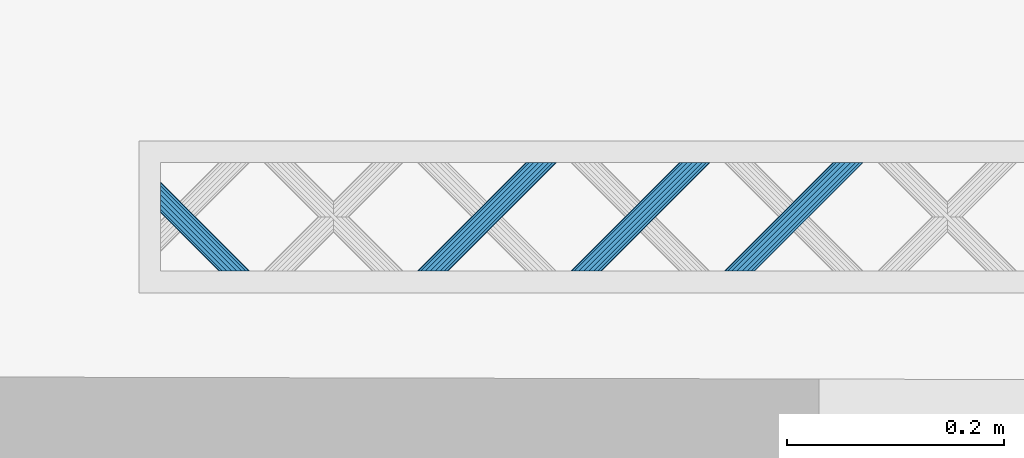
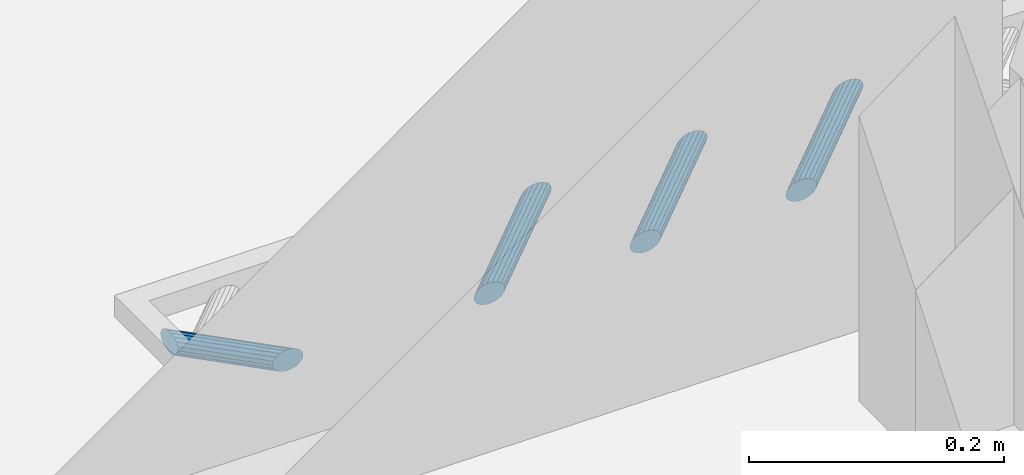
# One storey, part 61 of 133: 4 members, 1 element without a shape of its own.
"""IFC2X3 building model written with IfcOpenShell, lengths in centimetres."""

from ifc_helpers import new_model, entity, si_unit, converted_unit, direction, frame, origin, origin_with_axes, place, context, subcontext, project, spatial, faceted_brep, material, type_object, element, aggregate, save


model = new_model("IFC2X3")

# Units and contexts
model_context = context("Model", 3, precision=0.0001, world=origin(), true_north=direction((0.225632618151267, 0.974212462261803, 0.0)))
body_context = subcontext(model_context, "Body", "Model", "MODEL_VIEW")
ifc_project = project(units=[si_unit("LENGTHUNIT", "METRE", prefix="CENTI"), si_unit("AREAUNIT", "SQUARE_METRE", prefix="CENTI"), si_unit("VOLUMEUNIT", "CUBIC_METRE", prefix="CENTI"), converted_unit("PLANEANGLEUNIT", "DEGREE", entity("IfcRatioMeasure", 0.0174532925), si_unit("PLANEANGLEUNIT", "RADIAN"), dimensions=[0, 0, 0, 0, 0, 0, 0])], contexts=[model_context])

# Site, building, storey
site_placement = place(None, origin_with_axes())
site = spatial("IfcSite", under=ifc_project, at=site_placement, Name="Default Site", CompositionType="ELEMENT")
building_placement = place(site_placement, origin_with_axes())
building = spatial("IfcBuilding", under=site, at=building_placement, Name="Default Building", CompositionType="ELEMENT")
storey_placement = place(building_placement, frame((0.0, 0.0, -291.400371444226), z_axis=(0.0, 0.0, 1.0), x_axis=(1.0, 0.0, 0.0)))
storey = spatial("IfcBuildingStorey", under=building, at=storey_placement, Name="Rez-de-Jardin", CompositionType="ELEMENT", Elevation=-291.400371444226)

# Assembly, members
building_element_proxy_type = type_object("IfcBuildingElementProxyType", Name="Type Object", PredefinedType="NOTDEFINED")
assembly_placement = place(storey_placement, frame((-322.682568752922, 627.125798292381, 0.0), z_axis=(0.0, 1.0, -2.38697950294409e-15), x_axis=(1.0, 0.0, 0.0)))
assembly = element("IfcElementAssembly", 1, at=assembly_placement, inside=storey, type_object=building_element_proxy_type, Name="Panneau 92029", ObjectType="Precast panel", PredefinedType="USERDEFINED")
ifc_material = material(Name="Aluminium satiné")
member_1_placement = place(assembly_placement, frame((38.4050458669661, 0.342020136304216, 11.9999997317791), z_axis=(1.16937776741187e-15, -1.43218081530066e-15, 1.0), x_axis=(0.632457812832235, -0.774594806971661, -1.84894192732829e-15)))
member_1 = element("IfcMember", 2, at=member_1_placement, material=ifc_material, Name="4294966829", context=body_context, shape_type="Brep", body=[
    faceted_brep([(7.49400541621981e-14, -5.55111512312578e-14, 4.9960036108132e-14), (-0.388290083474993, -5.55111512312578e-14, 4.92421102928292e-14), (-0.799166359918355, -0.150246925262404, 4.84824239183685e-14), (-1.18307514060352, -0.432623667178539, 4.77725988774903e-14), (-1.49370756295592, -0.813066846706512, 4.71982575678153e-14), (-1.6935980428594, -1.24569095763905, 4.6828671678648e-14), (-1.75863665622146, -1.67831484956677, 4.67084190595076e-14), (-1.68098087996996, -2.05876033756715, 4.68520000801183e-14), (-1.46999321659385, -2.34113520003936, 4.72421040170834e-14), (-1.15112683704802, -2.49138695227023, 4.7831669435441e-14), (-0.762836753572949, -2.49138695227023, 4.85495952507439e-14), (-0.351960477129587, -2.34114002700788, 4.93092816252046e-14), (0.0319464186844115, -2.05876559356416, 5.00191031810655e-14), (0.342578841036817, -1.67832241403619, 5.05934444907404e-14), (0.542471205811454, -1.24569599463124, 5.0963033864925e-14), (0.607509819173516, -0.813072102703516, 5.10832864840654e-14), (0.529854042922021, -0.432626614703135, 5.09397054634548e-14), (0.318866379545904, -0.150251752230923, 5.05496015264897e-14), (-6.0057113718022, -7.89619936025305, -9.99999977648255), (-5.79472559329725, -8.17857653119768, -9.99999977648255), (-5.71706793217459, -8.55901971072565, -9.99999977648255), (-5.78210843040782, -8.99164591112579, -9.99999977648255), (-5.98199891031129, -9.42427002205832, -9.99999977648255), (-6.29263133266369, -9.80471320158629, -9.99999977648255), (-6.67653822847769, -10.08708763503, -9.99999977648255), (-7.08741450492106, -10.2373345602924, -9.99999977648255), (-7.47570458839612, -10.2373345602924, -9.99999977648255), (-7.79457285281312, -10.0870851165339, -9.99999977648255), (-8.00555863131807, -9.80470794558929, -9.99999977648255), (-8.08321440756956, -9.4242624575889, -9.99999977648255), (-8.0181757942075, -8.99163856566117, -9.99999977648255), (-7.81828531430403, -8.55901445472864, -9.99999977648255), (-7.50765289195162, -8.17857127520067, -9.99999977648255), (-7.12374599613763, -7.89619684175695, -9.99999977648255), (-6.7128678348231, -7.74594760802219, -9.99999977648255), (-6.3245796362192, -7.7459499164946, -9.99999977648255), (0.318866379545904, -0.150251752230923, 4.9960036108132e-14), (0.529853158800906, -0.432627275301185, 1.07086517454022e-06), (-5.79472543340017, -8.17857641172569, -9.99999997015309), (-6.00571152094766, -7.89619947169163, -9.99999959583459), (0.529854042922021, -0.432626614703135, 4.9960036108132e-14), (0.607510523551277, -0.813071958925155, -5.56859138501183e-07), (-5.71706740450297, -8.55901960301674, -10.0000001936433), (-5.79472435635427, -8.17857627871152, -10.0000007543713), (0.607509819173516, -0.813072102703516, 5.13478148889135e-14), (0.542470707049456, -1.245695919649, 2.57365118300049e-07), (-5.78210788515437, -8.9916459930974, -10.0000000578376), (-5.71706808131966, -8.55901968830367, -9.99999969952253), (0.542471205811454, -1.24569599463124, 5.13478148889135e-14), (0.342579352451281, -1.6783226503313, -1.40415054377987e-07), (-5.98199847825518, -9.42427022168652, -9.99999989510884), (-5.78210787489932, -8.99164616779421, -9.99999992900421), (0.342578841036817, -1.67832241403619, 4.9960036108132e-14), (0.0319464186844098, -2.05876559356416, 4.9960036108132e-14), (0.0319464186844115, -2.05876559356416, 4.9960036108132e-14), (-0.351960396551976, -2.34114013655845, 3.38954149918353e-08), (-6.67653809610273, -10.0870878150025, -9.99999972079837), (-6.29263128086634, -9.80471327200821, -9.99999975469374), (-0.351960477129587, -2.34114002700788, 4.9960036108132e-14), (-0.762836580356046, -2.49138742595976, 2.57365115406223e-07), (-7.08741427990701, -10.2373351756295, -9.99999944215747), (-6.67653817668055, -10.0870877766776, -9.99999969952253), (-0.762836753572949, -2.49138695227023, 4.85722573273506e-14), (-1.15112683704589, -2.49138623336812, -5.56859141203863e-07), (-7.47570458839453, -10.2373340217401, -10.0000001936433), (-7.08741450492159, -10.2373347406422, -9.99999963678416), (-1.15112683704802, -2.49138695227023, 4.71844785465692e-14), (-1.46999368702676, -2.34113619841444, 1.07086517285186e-06), (-7.79457276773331, -10.0870849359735, -9.99999997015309), (-7.47570466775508, -10.2373347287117, -9.99999959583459), (-1.46999321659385, -2.34113520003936, 4.71844785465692e-14), (-1.68097999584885, -2.0587596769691, -1.0708650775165e-06), (-8.00555789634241, -9.80470739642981, -10.0000006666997), (-7.79457180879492, -10.0870843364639, -10.0000010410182), (-1.68098087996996, -2.05876033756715, 4.71844785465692e-14), (-1.75863736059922, -1.67831499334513, 5.56859235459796e-07), (-8.08321528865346, -9.42426263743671, -9.99999907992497), (-8.00555880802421, -9.80470798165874, -9.99999963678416), (-1.75863665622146, -1.67831484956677, 4.57966997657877e-14), (-1.6935975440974, -1.24569103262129, -2.57365020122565e-07), (-8.01817544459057, -8.99163861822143, -9.99999995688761), (-8.08321455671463, -9.42426243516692, -9.99999969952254), (-1.6935980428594, -1.24569095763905, 4.71844785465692e-14), (-1.49370743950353, -0.813066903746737, -3.38953181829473e-08), (-7.81828527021, -8.55901447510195, -9.99999978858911), (-8.01817587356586, -8.99163852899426, -9.99999975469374), (-1.49370756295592, -0.813066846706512, 4.71844785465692e-14), (-1.18307514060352, -0.43262366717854, 4.71844785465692e-14), (-1.18307514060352, -0.432623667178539, 4.71844785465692e-14), (-0.799166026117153, -0.150247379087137, 1.40415152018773e-07), (-7.12374602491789, -7.89619680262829, -9.99999978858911), (-7.50765284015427, -8.17857134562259, -9.99999975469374), (-0.799166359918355, -0.150246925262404, 4.85722573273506e-14), (-0.388290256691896, 4.73689474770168e-07, -2.57365018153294e-07), (-6.71286795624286, -7.74594727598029, -9.9999999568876), (-7.12374635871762, -7.89619585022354, -10.0000003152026), (-0.388290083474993, -5.55111512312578e-14, 4.85722573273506e-14), (-2.05468528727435e-12, -7.18902166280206e-07, 5.56859238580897e-07), (-6.32457963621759, -7.74594937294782, -10.0000001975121), (-6.71286783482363, -7.74594778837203, -9.99999963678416), (0.318866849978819, -0.150250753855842, -1.0708650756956e-06), (-6.00571098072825, -7.89619853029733, -10.0000006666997), (-6.32457908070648, -7.74594873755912, -10.0000010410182)], [[[0, 1, 2, 3, 4, 5, 6, 7, 8, 9, 10, 11, 12, 13, 14, 15, 16, 17]], [[18, 19, 20, 21, 22, 23, 24, 25, 26, 27, 28, 29, 30, 31, 32, 33, 34, 35]], [[36, 37, 38, 39]], [[40, 41, 42, 43]], [[44, 45, 46, 47]], [[48, 49, 50, 51]], [[52, 53, 23, 22]], [[54, 55, 56, 57]], [[58, 59, 60, 61]], [[62, 63, 64, 65]], [[66, 67, 68, 69]], [[70, 71, 72, 73]], [[74, 75, 76, 77]], [[78, 79, 80, 81]], [[82, 83, 84, 85]], [[86, 87, 32, 31]], [[88, 89, 90, 91]], [[92, 93, 94, 95]], [[96, 97, 98, 99]], [[0, 100, 101, 102]]]),
])
member_2_placement = place(assembly_placement, frame((52.5471806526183, 0.342020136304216, 11.9999997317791), z_axis=(1.16937776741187e-15, -1.43218081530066e-15, 1.0), x_axis=(0.632457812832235, -0.774594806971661, -1.84894192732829e-15)))
member_2 = element("IfcMember", 3, at=member_2_placement, material=ifc_material, Name="4294966828", context=body_context, shape_type="Brep", body=[
    faceted_brep([(7.21644966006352e-14, -6.66133814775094e-14, 6.66133814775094e-14), (-0.38829008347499, -6.66133814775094e-14, 6.58954556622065e-14), (-0.799166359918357, -0.150246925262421, 6.51357692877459e-14), (-1.18307325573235, -0.432621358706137, 6.44259477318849e-14), (-1.49370756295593, -0.813066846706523, 6.38516029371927e-14), (-1.69359804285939, -1.24569095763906, 6.34820170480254e-14), (-1.75863665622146, -1.67831484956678, 6.3361764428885e-14), (-1.6809789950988, -2.05875802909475, 6.35053489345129e-14), (-1.46999321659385, -2.34113520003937, 6.38954493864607e-14), (-1.15112495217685, -2.49138464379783, 6.44850182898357e-14), (-0.762836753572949, -2.49138695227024, 6.52029406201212e-14), (-0.351960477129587, -2.34114002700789, 6.59626269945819e-14), (0.0319464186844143, -2.05876559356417, 6.66724485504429e-14), (0.342580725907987, -1.67832010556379, 6.72467933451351e-14), (0.542471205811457, -1.24569599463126, 6.76163792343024e-14), (0.607509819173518, -0.813072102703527, 6.77366318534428e-14), (0.529854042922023, -0.432626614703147, 6.75930508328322e-14), (0.318868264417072, -0.150249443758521, 6.72029503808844e-14), (-6.0057113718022, -7.89619936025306, -9.99999977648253), (-5.79472370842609, -8.17857422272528, -9.99999977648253), (-5.71706793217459, -8.55901971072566, -9.99999977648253), (-5.78210654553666, -8.99164360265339, -9.99999977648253), (-5.98199702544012, -9.42426771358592, -9.99999977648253), (-6.29262944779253, -9.80471089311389, -9.99999977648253), (-6.67653822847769, -10.08708763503, -9.99999977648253), (-7.08741450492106, -10.2373345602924, -9.99999977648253), (-7.47570458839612, -10.2373345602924, -9.99999977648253), (-7.79457096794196, -10.0870828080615, -9.99999977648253), (-8.00555863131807, -9.8047079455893, -9.99999977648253), (-8.08321440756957, -9.42426245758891, -9.99999977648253), (-8.0181757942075, -8.99163856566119, -9.99999977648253), (-7.81828342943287, -8.55901214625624, -9.99999977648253), (-7.50765100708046, -8.17856896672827, -9.99999977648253), (-7.12374411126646, -7.89619453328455, -9.99999977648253), (-6.7128678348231, -7.7459476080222, -9.99999977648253), (-6.32457775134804, -7.7459476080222, -9.99999977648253), (0.318868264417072, -0.150249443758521, 6.66133814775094e-14), (0.529854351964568, -0.432626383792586, -3.74318426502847e-07), (-5.794723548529, -8.17857410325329, -9.99999997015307), (-6.005710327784, -7.89619858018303, -10.0000010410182), (0.529854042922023, -0.432626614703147, 6.66133814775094e-14), (0.607510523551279, -0.813071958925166, -5.56859121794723e-07), (-5.71706740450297, -8.55901960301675, -10.0000001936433), (-5.79472388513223, -8.17857425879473, -9.99999963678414), (0.607509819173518, -0.813072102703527, 6.80011602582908e-14), (0.542470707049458, -1.24569591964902, 2.5736513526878e-07), (-5.78210719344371, -8.99164350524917, -9.99999944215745), (-5.71706808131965, -8.55901968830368, -9.99999969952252), (0.542471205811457, -1.24569599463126, 6.80011602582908e-14), (0.342580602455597, -1.67832004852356, 3.38954321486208e-08), (-5.98199722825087, -9.42426761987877, -9.99999972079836), (-5.78210662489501, -8.99164356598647, -9.99999975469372), (0.342580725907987, -1.67832010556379, 6.66133814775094e-14), (0.0319464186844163, -2.05876559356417, 6.66133814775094e-14), (0.0319464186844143, -2.05876559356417, 6.66133814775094e-14), (-0.351960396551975, -2.34114013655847, 3.38954320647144e-08), (-6.67653809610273, -10.0870878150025, -9.99999972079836), (-6.29262898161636, -9.80471152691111, -9.99999958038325), (-0.351960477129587, -2.34114002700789, 6.66133814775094e-14), (-0.762836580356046, -2.49138742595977, 2.57365132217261e-07), (-7.08741427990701, -10.2373351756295, -9.99999944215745), (-6.67653817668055, -10.0870877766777, -9.99999969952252), (-0.762836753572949, -2.49138695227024, 6.52256026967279e-14), (-1.15112495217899, -2.49138536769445, 5.60727983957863e-07), (-7.47570458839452, -10.2373340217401, -10.0000001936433), (-7.08741450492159, -10.2373347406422, -9.99999963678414), (-1.15112495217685, -2.49138464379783, 6.38378239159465e-14), (-1.46999305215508, -2.34113485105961, -3.74318428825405e-07), (-7.79457088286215, -10.0870826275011, -9.99999997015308), (-7.4757040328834, -10.2373333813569, -10.0000010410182), (-1.46999321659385, -2.34113520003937, 6.38378239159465e-14), (-1.68097930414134, -2.05875826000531, 3.74318556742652e-07), (-8.00555789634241, -9.80470739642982, -10.0000006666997), (-7.79457111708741, -10.0870829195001, -9.99999959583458), (-1.6809789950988, -2.05875802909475, 6.38378239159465e-14), (-1.75863594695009, -1.67831470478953, -5.60727857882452e-07), (-8.08321387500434, -9.42426234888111, -10.0000001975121), (-8.00555739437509, -9.80470769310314, -10.0000007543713), (-1.75863665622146, -1.67831484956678, 6.24500451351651e-14), (-1.6935975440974, -1.2456910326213, -2.57365001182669e-07), (-8.01817544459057, -8.99163861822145, -9.99999995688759), (-8.08321455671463, -9.42426243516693, -9.99999969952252), (-1.69359804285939, -1.24569095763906, 6.38378239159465e-14), (-1.49370743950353, -0.813066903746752, -3.38953033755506e-08), (-7.81828402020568, -8.55901187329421, -9.99999961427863), (-8.01817587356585, -8.99163852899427, -9.99999975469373), (-1.49370756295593, -0.813066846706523, 6.38378239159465e-14), (-1.18307325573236, -0.432621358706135, 6.38378239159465e-14), (-1.18307325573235, -0.432621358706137, 6.38378239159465e-14), (-0.79916644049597, -0.150246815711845, -3.38953006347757e-08), (-7.12374414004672, -7.89619449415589, -9.99999978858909), (-7.50765095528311, -8.17856903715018, -9.99999975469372), (-0.799166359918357, -0.150246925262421, 6.52256026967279e-14), (-0.388290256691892, 4.7368946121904e-07, -2.57365000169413e-07), (-6.71286795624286, -7.7459472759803, -9.99999995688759), (-7.12374405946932, -7.89619467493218, -9.99999969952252), (-0.38829008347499, -6.66133814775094e-14, 6.52256026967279e-14), (-2.05746084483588e-12, -7.18902177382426e-07, 5.56859255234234e-07), (-6.3245777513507, -7.74594850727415, -9.99999907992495), (-6.71286783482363, -7.74594778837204, -9.99999963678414), (0.318868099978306, -0.150249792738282, 3.74318559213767e-07), (-6.00571098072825, -7.89619853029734, -10.0000006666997), (-6.324577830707, -7.74594777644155, -9.99999959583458)], [[[0, 1, 2, 3, 4, 5, 6, 7, 8, 9, 10, 11, 12, 13, 14, 15, 16, 17]], [[18, 19, 20, 21, 22, 23, 24, 25, 26, 27, 28, 29, 30, 31, 32, 33, 34, 35]], [[36, 37, 38, 39]], [[40, 41, 42, 43]], [[44, 45, 46, 47]], [[48, 49, 50, 51]], [[52, 53, 23, 22]], [[54, 55, 56, 57]], [[58, 59, 60, 61]], [[62, 63, 64, 65]], [[66, 67, 68, 69]], [[70, 71, 72, 73]], [[74, 75, 76, 77]], [[78, 79, 80, 81]], [[82, 83, 84, 85]], [[86, 87, 32, 31]], [[88, 89, 90, 91]], [[92, 93, 94, 95]], [[96, 97, 98, 99]], [[0, 100, 101, 102]]]),
])
member_3_placement = place(assembly_placement, frame((66.6893184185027, 0.342020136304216, 11.9999997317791), z_axis=(1.16937776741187e-15, -1.43218081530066e-15, 1.0), x_axis=(0.632457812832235, -0.774594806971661, -1.84894192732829e-15)))
member_3 = element("IfcMember", 4, at=member_3_placement, material=ifc_material, Name="4294966827", context=body_context, shape_type="Brep", body=[
    faceted_brep([(4.44089209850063e-14, -3.33066907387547e-14, -5.55111512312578e-15), (-0.388290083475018, -3.33066907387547e-14, -6.26904093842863e-15), (-0.79916635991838, -0.150246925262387, -7.02872731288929e-15), (-1.18307325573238, -0.432621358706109, -7.73854886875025e-15), (-1.49370756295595, -0.813066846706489, -8.31289366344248e-15), (-1.69359804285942, -1.24569095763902, -8.68247955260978e-15), (-1.75863665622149, -1.67831484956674, -8.80273217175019e-15), (-1.68098087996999, -2.05876033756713, -8.65915115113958e-15), (-1.46999510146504, -2.34113750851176, -8.26905069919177e-15), (-1.15112683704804, -2.49138695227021, -7.67948179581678e-15), (-0.762836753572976, -2.49138695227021, -6.96155598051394e-15), (-0.351960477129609, -2.34114002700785, -6.20186960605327e-15), (0.0319464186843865, -2.05876559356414, -5.49204805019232e-15), (0.342580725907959, -1.67832010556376, -4.91770325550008e-15), (0.542471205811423, -1.24569599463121, -4.54811736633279e-15), (0.607509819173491, -0.813072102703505, -4.42786474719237e-15), (0.529854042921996, -0.432626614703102, -4.57144576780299e-15), (0.318864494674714, -0.150254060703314, -4.96155318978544e-15), (-6.00571137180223, -7.89619936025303, -9.9999997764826), (-5.79472559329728, -8.17857653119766, -9.9999997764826), (-5.71706981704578, -8.55902201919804, -9.9999997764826), (-5.78210843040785, -8.99164591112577, -9.9999997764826), (-5.98199891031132, -9.42427002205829, -9.9999997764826), (-6.29263321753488, -9.80471551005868, -9.9999997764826), (-6.67654011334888, -10.0870899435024, -9.99999977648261), (-7.08741638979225, -10.2373368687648, -9.99999977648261), (-7.47570647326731, -10.2373368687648, -9.99999977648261), (-7.79457473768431, -10.0870874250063, -9.99999977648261), (-8.00556051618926, -9.80471025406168, -9.99999977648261), (-8.08321629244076, -9.42426476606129, -9.99999977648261), (-8.0181776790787, -8.99164087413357, -9.99999977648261), (-7.81828719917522, -8.55901676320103, -9.99999977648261), (-7.50765289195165, -8.17857127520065, -9.99999977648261), (-7.12374599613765, -7.89619684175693, -9.99999977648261), (-6.71286971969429, -7.74594991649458, -9.99999977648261), (-6.32457963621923, -7.74594991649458, -9.9999997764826), (0.318864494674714, -0.150254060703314, -5.55111512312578e-15), (0.529851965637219, -0.432628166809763, 2.51604874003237e-06), (-5.79472662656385, -8.17857730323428, -9.99999852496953), (-6.00571271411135, -7.89620036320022, -9.99999815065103), (0.529854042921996, -0.432626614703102, -5.55111512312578e-15), (0.607510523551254, -0.813071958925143, -5.56859196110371e-07), (-5.71706787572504, -8.55902162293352, -10.0000013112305), (-5.79472435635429, -8.1785762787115, -10.0000007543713), (0.607509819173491, -0.813072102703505, -4.16333634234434e-15), (0.542470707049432, -1.24569591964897, 2.57365059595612e-07), (-5.7821078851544, -8.99164599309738, -10.0000000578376), (-5.71706877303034, -8.5590221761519, -10.0000003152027), (0.542471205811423, -1.24569599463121, -4.16333634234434e-15), (0.342580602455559, -1.67832004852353, 3.38953627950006e-08), (-5.98199847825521, -9.42427022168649, -9.9999998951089), (-5.78210787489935, -8.99164616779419, -9.99999992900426), (0.342580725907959, -1.67832010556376, -5.55111512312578e-15), (0.0319464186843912, -2.05876559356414, -5.55111512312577e-15), (-6.29263321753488, -9.80471551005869, -9.9999997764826), (-5.98199891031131, -9.4242700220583, -9.9999997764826), (0.0319464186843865, -2.05876559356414, -5.55111512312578e-15), (-0.351960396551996, -2.34114013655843, 3.38953589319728e-08), (-6.67654039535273, -10.0870895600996, -9.9999998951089), (-6.29263358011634, -9.80471501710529, -9.99999992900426), (-0.351960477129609, -2.34114002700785, -6.93889390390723e-15), (-0.762836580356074, -2.49138742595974, 2.57365058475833e-07), (-7.08741657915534, -10.2373363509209, -10.0000000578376), (-6.67654047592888, -10.087088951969, -10.0000003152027), (-0.762836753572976, -2.49138695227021, -6.93889390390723e-15), (-1.15112683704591, -2.4913862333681, -5.56859196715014e-07), (-7.47570647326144, -10.2373348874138, -10.0000013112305), (-7.08741638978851, -10.2373356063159, -10.0000007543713), (-1.15112683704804, -2.49138695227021, -8.32667268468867e-15), (-1.46999493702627, -2.341137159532, -3.743185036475e-07), (-7.79457401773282, -10.0870858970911, -10.0000014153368), (-7.47570591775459, -10.2373356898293, -10.0000010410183), (-1.46999510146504, -2.34113750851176, -8.32667268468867e-15), (-1.68098118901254, -2.05876056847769, 3.74318486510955e-07), (-8.00555978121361, -9.8047097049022, -10.0000006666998), (-7.79457369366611, -10.0870866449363, -10.0000010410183), (-1.68098087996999, -2.05876033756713, -8.32667268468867e-15), (-1.75863736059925, -1.6783149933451, 5.56859180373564e-07), (-8.08321575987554, -9.42426465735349, -10.0000001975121), (-8.00555927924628, -9.80471000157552, -10.0000007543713), (-1.75863665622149, -1.67831484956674, -9.71445146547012e-15), (-1.69359754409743, -1.24569103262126, -2.57365076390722e-07), (-8.01817613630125, -8.99164110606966, -10.0000005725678), (-8.08321524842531, -9.42426492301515, -10.0000003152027), (-1.69359804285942, -1.24569095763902, -9.71445146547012e-15), (-1.49370743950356, -0.813066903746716, -3.3895374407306e-08), (-7.81828652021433, -8.55901707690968, -9.99999996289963), (-8.0181771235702, -8.99164113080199, -9.99999992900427), (-1.49370756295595, -0.813066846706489, -8.32667268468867e-15), (-1.18307325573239, -0.432621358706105, -8.32667268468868e-15), (-1.18307325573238, -0.432621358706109, -8.32667268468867e-15), (-0.799166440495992, -0.150246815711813, -3.38953725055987e-08), (-7.12374643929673, -7.89619623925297, -9.99999996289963), (-7.50765325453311, -8.17857078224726, -9.99999992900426), (-0.79916635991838, -0.150246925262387, -6.93889390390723e-15), (-0.388290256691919, 4.73689493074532e-07, -2.57365071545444e-07), (-6.71287025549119, -7.74594845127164, -10.0000005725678), (-7.12374635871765, -7.89619585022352, -10.0000003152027), (-0.388290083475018, -3.33066907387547e-14, -6.93889390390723e-15), (-2.08521642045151e-12, -7.18902144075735e-07, 5.56859183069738e-07), (-6.32457963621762, -7.7459493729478, -10.0000001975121), (-6.71286971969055, -7.74594865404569, -10.0000007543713), (0.318865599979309, -0.150251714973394, -2.51604874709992e-06), (-6.00571098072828, -7.89619853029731, -10.0000006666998), (-6.32457908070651, -7.74594873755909, -10.0000010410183)], [[[0, 1, 2, 3, 4, 5, 6, 7, 8, 9, 10, 11, 12, 13, 14, 15, 16, 17]], [[18, 19, 20, 21, 22, 23, 24, 25, 26, 27, 28, 29, 30, 31, 32, 33, 34, 35]], [[36, 37, 38, 39]], [[40, 41, 42, 43]], [[44, 45, 46, 47]], [[48, 49, 50, 51]], [[52, 53, 54, 55]], [[56, 57, 58, 59]], [[60, 61, 62, 63]], [[64, 65, 66, 67]], [[68, 69, 70, 71]], [[72, 73, 74, 75]], [[76, 77, 78, 79]], [[80, 81, 82, 83]], [[84, 85, 86, 87]], [[88, 89, 32, 31]], [[90, 91, 92, 93]], [[94, 95, 96, 97]], [[98, 99, 100, 101]], [[0, 102, 103, 104]]]),
])
member_4_placement = place(assembly_placement, frame((7.46292099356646, 0.342020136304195, 1.99999995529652), z_axis=(1.16937634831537e-15, 1.43218776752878e-15, -1.0), x_axis=(-0.632455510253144, -0.774596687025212, -1.84894641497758e-15)))
member_4 = element("IfcMember", 5, at=member_4_placement, material=ifc_material, Name="4294966796", context=body_context, shape_type="Brep", body=[
    faceted_brep([(-9.92261828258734e-14, 9.22872889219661e-14, 1.85615411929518e-13), (-0.388289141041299, 9.22872889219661e-14, 1.86333337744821e-13), (-0.799165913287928, -0.150249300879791, 1.87093026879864e-13), (-1.18307244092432, -0.432625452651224, 1.87802849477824e-13), (-1.49370373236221, -0.813069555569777, 1.88377190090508e-13), (-1.69359292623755, -1.24569426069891, 1.88746774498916e-13), (-1.75863119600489, -1.67831950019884, 1.88867026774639e-13), (-1.68097334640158, -2.05876360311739, 1.8872344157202e-13), (-1.46998625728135, -2.34113956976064, 1.88333337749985e-13), (-1.15111801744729, -2.49138864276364, 1.87743767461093e-13), (-0.762828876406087, -2.49138864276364, 1.87025841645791e-13), (-0.351952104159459, -2.34113934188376, 1.86266152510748e-13), (0.0319539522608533, -2.05876376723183, 1.85556330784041e-13), (0.342585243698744, -1.67831966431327, 1.84981990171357e-13), (0.542474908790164, -1.24569438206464, 1.84612404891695e-13), (0.607513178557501, -0.813069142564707, 1.84492152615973e-13), (0.529855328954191, -0.432625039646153, 1.84635737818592e-13), (0.318868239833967, -0.150249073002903, 1.85025841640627e-13), (3.71998217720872, 4.01524801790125, -5.37763349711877), (3.98490984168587, 3.79893549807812, -5.46292103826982), (4.21788333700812, 3.60871344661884, -5.70849664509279), (4.39080258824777, 3.46752547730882, -6.08474053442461), (4.48281101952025, 3.39240091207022, -6.54627196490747), (4.48281101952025, 3.39240091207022, -7.03742317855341), (4.39080258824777, 3.46752547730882, -7.49895386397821), (4.21788333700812, 3.60871344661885, -7.87519775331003), (3.98490984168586, 3.79893549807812, -8.120773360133), (3.71998217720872, 4.01524801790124, -8.20606090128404), (3.45505451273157, 4.23156053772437, -8.120773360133), (3.22208101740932, 4.42178258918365, -7.87519775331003), (3.04916176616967, 4.56297055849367, -7.49895386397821), (2.95715333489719, 4.63809512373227, -7.0374231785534), (2.95715333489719, 4.63809512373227, -6.54627196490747), (3.04916176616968, 4.56297055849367, -6.0847405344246), (3.22208101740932, 4.42178258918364, -5.70849664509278), (3.45505451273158, 4.23156053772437, -5.46292103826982), (0.318868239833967, -0.150249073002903, 1.85268467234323e-13), (0.529855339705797, -0.432625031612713, 1.30227733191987e-08), (3.98490985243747, 3.79893550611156, -5.46292102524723), (0.529855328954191, -0.432625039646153, 1.84921522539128e-13), (0.6075131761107, -0.813069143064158, -1.93418134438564e-09), (4.21788333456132, 3.60871344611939, -5.70849664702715), (0.607513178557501, -0.813069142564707, 1.84574577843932e-13), (0.542475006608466, -1.24569439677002, 5.04751658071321e-08), (4.39080268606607, 3.46752546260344, -6.08474048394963), (4.21788333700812, 3.60871344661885, -5.70849664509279), (0.542474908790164, -1.24569438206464, 1.84574577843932e-13), (0.342585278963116, -1.67831968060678, 9.6824371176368e-09), (4.48281105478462, 3.39240089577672, -6.54627195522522), (0.342585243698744, -1.67831966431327, 1.85268467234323e-13), (0.0319539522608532, -2.05876376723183, 1.85615411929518e-13), (0.0319539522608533, -2.05876376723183, 1.85615411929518e-13), (-0.351952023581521, -2.34113945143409, -3.38951793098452e-08), (4.3908026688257, 3.46752536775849, -7.49895389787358), (-0.351952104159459, -2.34113934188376, 1.86309301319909e-13), (-0.762828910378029, -2.49138854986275, 5.04751677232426e-08), (4.21788330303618, 3.60871353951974, -7.87519770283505), (-0.762828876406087, -2.49138864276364, 1.870031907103e-13), (-1.15111801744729, -2.49138864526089, -1.93417824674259e-09), (3.98490984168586, 3.79893549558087, -8.12077336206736), (-1.15111801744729, -2.49138864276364, 1.88044024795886e-13), (-1.46998625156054, -2.34113955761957, 1.30227770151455e-08), (3.71998218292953, 4.01524803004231, -8.20606088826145), (-1.46998625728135, -2.34113956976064, 1.88390969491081e-13), (-1.68097335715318, -2.05876361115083, -1.3022399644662e-08), (3.45505450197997, 4.23156052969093, -8.12077337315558), (3.71998217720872, 4.01524801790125, -8.20606090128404), (-1.68097334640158, -2.05876360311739, 1.88737914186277e-13), (-1.75863119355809, -1.67831949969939, 1.93455516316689e-09), (3.22208101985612, 4.4217825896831, -7.87519775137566), (-1.75863119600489, -1.67831950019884, 1.89084858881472e-13), (-1.69359302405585, -1.24569424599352, -5.04747923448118e-08), (3.04916166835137, 4.56297057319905, -7.49895391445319), (-1.69359292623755, -1.24569426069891, 1.89084858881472e-13), (-1.49370360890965, -0.813069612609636, 3.38955538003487e-08), (2.95715345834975, 4.63809506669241, -7.03742314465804), (-1.49370373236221, -0.813069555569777, 1.88390969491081e-13), (-1.18307244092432, -0.432625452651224, 1.88044024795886e-13), (-0.799165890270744, -0.150249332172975, -9.68206433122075e-09), (3.04916178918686, 4.56297052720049, -6.08474054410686), (-0.799165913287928, -0.150249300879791, 1.87350135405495e-13), (-0.388289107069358, -9.29007993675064e-08, -5.04747946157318e-08), (3.22208105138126, 4.42178249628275, -5.70849669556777), (-0.388289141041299, 9.22872889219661e-14, 1.86656246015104e-13), (-9.92518803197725e-14, 2.49734824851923e-09, 1.93455179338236e-09), (3.45505451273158, 4.23156054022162, -5.46292103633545), (0.318868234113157, -0.150249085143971, -1.30224035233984e-08), (3.71998217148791, 4.01524800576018, -5.37763351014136)], [[[0, 1, 2, 3, 4, 5, 6, 7, 8, 9, 10, 11, 12, 13, 14, 15, 16, 17]], [[18, 19, 20, 21, 22, 23, 24, 25, 26, 27, 28, 29, 30, 31, 32, 33, 34, 35]], [[36, 37, 38, 18]], [[39, 40, 41, 19]], [[42, 43, 44, 45]], [[46, 47, 48, 21]], [[49, 50, 23, 22]], [[51, 52, 53, 23]], [[54, 55, 56, 24]], [[57, 58, 59, 25]], [[60, 61, 62, 26]], [[63, 64, 65, 66]], [[67, 68, 69, 28]], [[70, 71, 72, 29]], [[73, 74, 75, 30]], [[76, 77, 32, 31]], [[77, 78, 79, 32]], [[80, 81, 82, 33]], [[83, 84, 85, 34]], [[0, 86, 87, 35]]]),
])
aggregate(assembly, [member_1, member_2, member_3, member_4])

save(model, "model.ifc")
